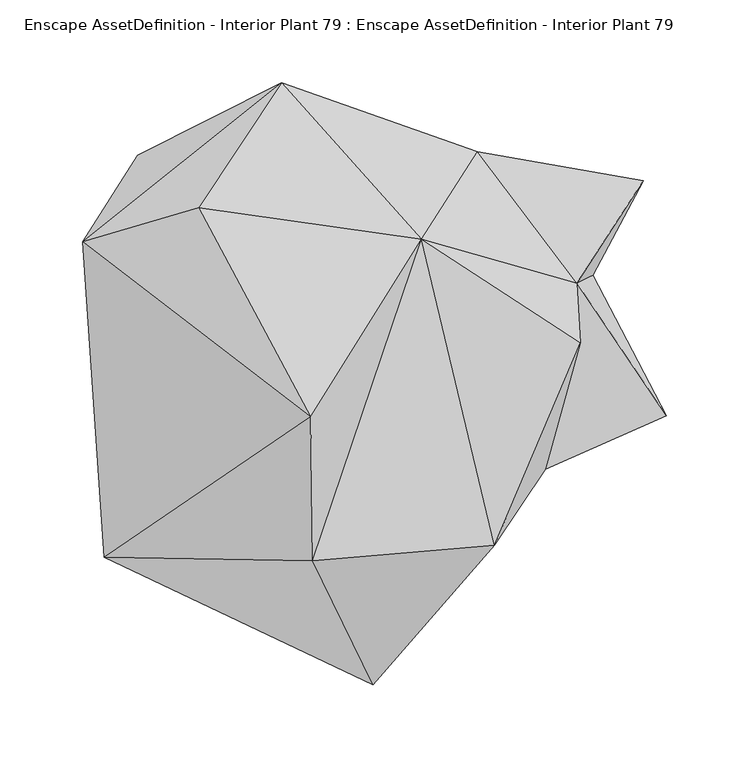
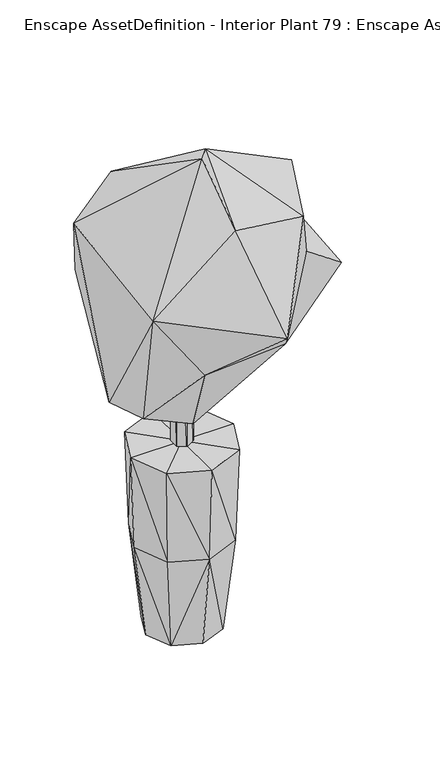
"""IFC4 building model written with IfcOpenShell, lengths in millimetres: geographic element geometry, Enscape AssetDefinition - Interior Plant 79 : Enscape AssetDefinition - Interior Plant 79."""

from ifc_helpers import new_model, si_unit, origin, place, context, project, spatial, faceted_brep, source, transform, mapped, element, save


def enscape_assetdefinition_interior_plant_79_enscape_2944c8c8(model_context):
    return source(origin(), model_context, "Body", "Brep", [
        faceted_brep([(-73.5820532, 0.0, 147.7262974), (-52.0309135, -52.0309135, 147.7262974), (-79.5041695, 0.0, 295.4525948), (0.0, -73.5820532, 147.7262974), (-56.218531, -56.218531, 295.4525948), (-39.8816317, -39.8816317, 0.0), (-56.4003922, 0.0, 0.0), (-52.0309135, 52.0309135, 147.7262974), (0.0, 0.0, 0.0), (0.0, -56.4003922, 0.0), (-39.8816317, 39.8816317, 0.0), (0.0, 73.5820532, 147.7262974), (0.0, 79.5041695, 295.4525948), (-56.218531, 56.218531, 295.4525948), (0.0, 56.4003922, 0.0), (52.0309135, 52.0309135, 147.7262974), (56.218531, 56.218531, 295.4525948), (39.8816317, 39.8816317, 0.0), (0.0, 0.0, 295.4525948), (0.0, -79.5041695, 295.4525948), (56.218531, -56.218531, 295.4525948), (79.5041695, 0.0, 295.4525948), (73.5820532, 0.0, 147.7262974), (52.0309135, -52.0309135, 147.7262974), (39.8816317, -39.8816317, 0.0), (56.4003922, 0.0, 0.0)], [[[0, 1, 2]], [[1, 3, 4]], [[1, 5, 3]], [[2, 1, 4]], [[0, 5, 1]], [[6, 5, 0]], [[2, 7, 0]], [[7, 6, 0]], [[5, 6, 8]], [[9, 5, 8]], [[3, 5, 9]], [[10, 6, 7]], [[6, 10, 8]], [[11, 7, 12]], [[13, 7, 2]], [[12, 7, 13]], [[11, 10, 7]], [[14, 10, 11]], [[10, 14, 8]], [[15, 11, 16]], [[15, 17, 11]], [[16, 11, 12]], [[11, 17, 14]], [[16, 12, 18]], [[12, 13, 18]], [[13, 2, 18]], [[19, 20, 18]], [[4, 19, 18]], [[20, 21, 18]], [[2, 4, 18]], [[21, 16, 18]], [[21, 15, 16]], [[22, 15, 21]], [[22, 17, 15]], [[20, 22, 21]], [[23, 22, 20]], [[19, 23, 20]], [[3, 23, 19]], [[4, 3, 19]], [[24, 25, 23]], [[23, 25, 22]], [[3, 24, 23]], [[25, 17, 22]], [[17, 25, 8]], [[25, 24, 8]], [[9, 24, 3]], [[24, 9, 8]], [[14, 17, 8]]]),
        faceted_brep([(13.1944753, 7.6174992, 271.0347474), (0.0, 15.2349984, 271.0347474), (13.1944753, 7.6174992, 633.2194209), (-13.1944753, 7.6174992, 271.0347474), (0.0, 15.2349984, 633.2194209), (0.0, -15.2349984, 633.2194209), (-13.1944753, 7.6174992, 633.2194209), (13.1944753, -7.6174992, 633.2194209), (13.1944753, -7.6174992, 271.0347474), (0.0, -15.2349984, 271.0347474), (-13.1944753, -7.6174992, 633.2194209), (-13.1944753, -7.6174992, 271.0347474)], [[[0, 1, 2]], [[1, 3, 4]], [[2, 1, 4]], [[0, 3, 1]], [[5, 2, 6]], [[7, 0, 2]], [[2, 5, 7]], [[6, 2, 4]], [[8, 0, 7]], [[0, 9, 3]], [[9, 0, 8]], [[5, 8, 7]], [[9, 8, 5]], [[10, 9, 5]], [[5, 6, 10]], [[3, 11, 6]], [[4, 3, 6]], [[6, 11, 10]], [[3, 9, 11]], [[11, 9, 10]]]),
        faceted_brep([(144.2260295, -81.5779269, 602.2634506), (163.1392539, 30.6019895, 630.0858259), (165.3782576, -5.4684472, 698.2521415), (69.2448393, 57.1894199, 711.4710808), (172.8070527, 35.4026482, 536.0173583), (217.0542479, -49.2394939, 539.6105051), (203.1284273, 92.3671871, 601.0638475), (102.9755622, 110.0836694, 599.9687314), (113.3541837, -127.6329607, 697.9608536), (39.9813615, -211.8233889, 575.7611394), (3.5912045, -136.893034, 718.4511423), (-49.6374294, -146.9822526, 508.1579089), (114.1324565, -77.7276307, 460.2969885), (-122.3141029, -134.8270923, 614.633739), (2.2429142, -49.9864779, 783.4360003), (-135.2142692, 55.6338504, 663.1028056), (-85.7244879, -46.3180356, 389.4124925), (-103.8408577, 14.6718258, 385.2640092), (-2.7718663, -33.5596278, 344.1230357), (-101.9587293, 107.9131067, 543.7042713), (-10.1077789, 69.0580904, 374.1980493), (-65.4268041, 76.0948136, 710.8619809), (-15.2125107, 151.4905542, 611.1970544), (139.6893561, 51.2233078, 435.8791709)], [[[0, 1, 2]], [[2, 1, 3]], [[4, 1, 5]], [[0, 5, 1]], [[6, 7, 1]], [[4, 6, 1]], [[1, 7, 3]], [[2, 8, 0]], [[3, 8, 2]], [[9, 0, 8]], [[8, 3, 10]], [[10, 9, 8]], [[9, 11, 12]], [[11, 9, 13]], [[10, 13, 9]], [[9, 12, 0]], [[14, 10, 3]], [[14, 13, 10]], [[13, 14, 15]], [[11, 13, 16]], [[17, 13, 15]], [[13, 17, 16]], [[18, 12, 11]], [[16, 18, 11]], [[17, 18, 16]], [[19, 20, 17]], [[15, 19, 17]], [[18, 17, 20]], [[14, 21, 15]], [[21, 22, 15]], [[15, 22, 19]], [[14, 3, 21]], [[21, 3, 22]], [[22, 3, 7]], [[22, 23, 20]], [[22, 7, 23]], [[20, 19, 22]], [[23, 18, 20]], [[12, 18, 23]], [[4, 5, 23]], [[7, 4, 23]], [[5, 12, 23]], [[7, 6, 4]], [[12, 5, 0]]]),
    ])


if __name__ == "__main__":
    model = new_model("IFC4")
    model_context = context("Model", 3, world=origin())
    ifc_project = project(units=[si_unit("LENGTHUNIT", "METRE", prefix="MILLI")], contexts=[model_context])
    site = spatial("IfcSite", under=ifc_project)
    building = spatial("IfcBuilding", under=site)
    placement = place(None, origin())
    enscape_assetdefinition_interior_plant_79_enscape_shape = enscape_assetdefinition_interior_plant_79_enscape_2944c8c8(model_context)
    element("IfcGeographicElement", 1, ObjectType="Enscape AssetDefinition - Interior Plant 79 : Enscape AssetDefinition - Interior Plant 79", at=placement, inside=building, context=model_context, shape_type="MappedRepresentation", body=[
        mapped(enscape_assetdefinition_interior_plant_79_enscape_shape, transform((0.0, 0.0, 0.0), x_axis=(1.0, 0.0, 0.0), y_axis=(0.0, 1.0, 0.0), z_axis=(0.0, 0.0, 1.0))),
    ])
    save(model, "model.ifc")
